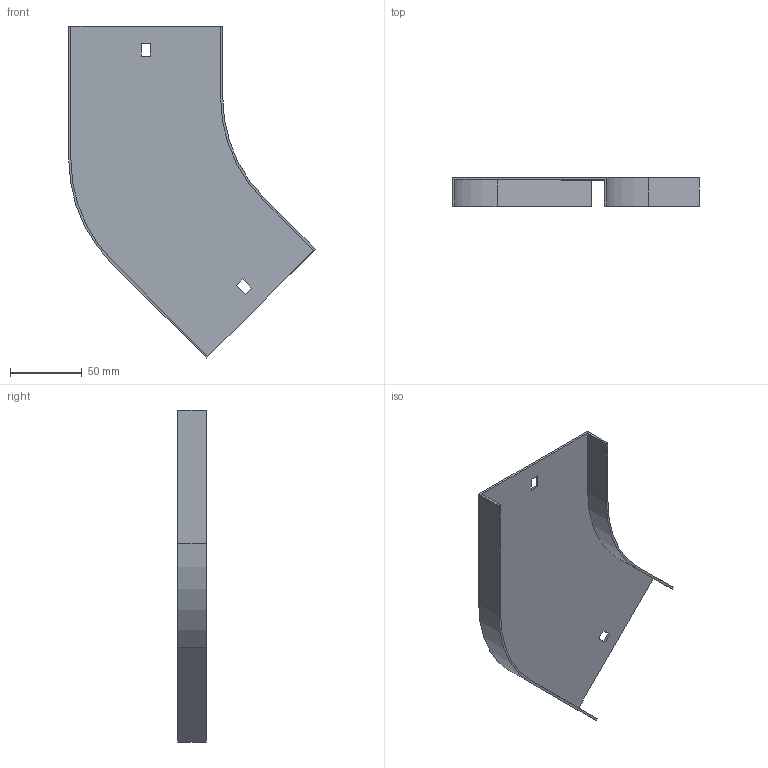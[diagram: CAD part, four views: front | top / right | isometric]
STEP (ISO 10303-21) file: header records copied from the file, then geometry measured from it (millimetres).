
FILE_DESCRIPTION (( 'STEP AP214' ), '1' );
FILE_NAME ('11N1R100.step', '2025-02-21T09:20:51', ( '' ), ( '' ), 'SwSTEP 2.0', 'SolidWorks 2023', '' );
FILE_SCHEMA (( 'AUTOMOTIVE_DESIGN' ));
Length unit declared in the file: millimetre
Products named in the file (1): 11N1R100
Bounding box: 171.21 x 20 x 230.67 mm (x, y, z)
Volume: 48365.2 mm3; surface area: 65676.8 mm2
Topology: 1 solids, 1 shells, 26 faces, 72 edges, 48 vertices
Faces by surface type: plane 22, cylinder 4
Entity records: 855 total; most frequent: CARTESIAN_POINT 147, ORIENTED_EDGE 144, DIRECTION 134, EDGE_CURVE 72, LINE 64, VECTOR 64, VERTEX_POINT 48, AXIS2_PLACEMENT_3D 35
